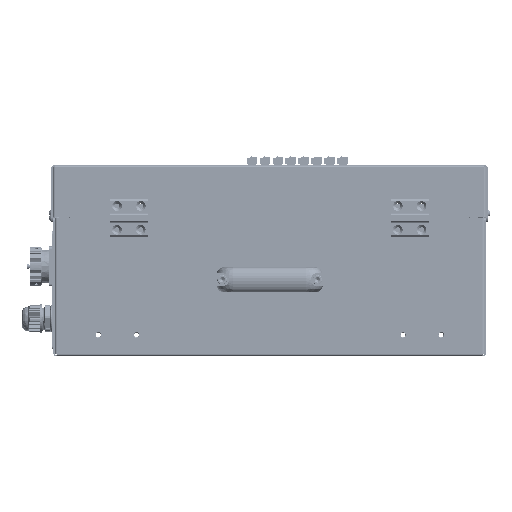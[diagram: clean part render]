
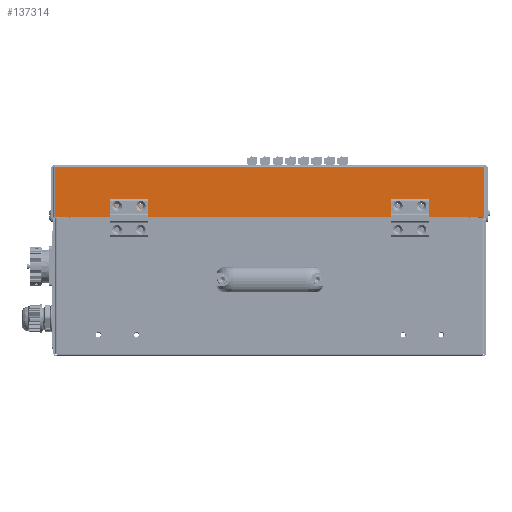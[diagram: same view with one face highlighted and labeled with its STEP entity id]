
A CAD part, front view. The second image highlights one B-rep face of the part: STEP entity #137314.
In plain terms, the highlighted planar face has unit normal (0, -1, 0) as drawn and (0, 1, 0) by its records, which use the part's own axes.
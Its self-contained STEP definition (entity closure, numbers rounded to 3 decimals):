
#278 = DIRECTION ( 'NONE',  ( 0., 1., 0. ) ) ;
#5006 = CARTESIAN_POINT ( 'NONE',  ( -225.4, 85., 53. ) ) ;
#8452 = VERTEX_POINT ( 'NONE', #103624 ) ;
#11930 = DIRECTION ( 'NONE',  ( 0., 0., 1. ) ) ;
#13753 = CARTESIAN_POINT ( 'NONE',  ( 160., 85., 37.85 ) ) ;
#15231 = DIRECTION ( 'NONE',  ( 0., 0., 1. ) ) ;
#16548 = ORIENTED_EDGE ( 'NONE', *, *, #148949, .F. ) ;
#19410 = FACE_BOUND ( 'NONE', #103997, .T. ) ;
#19892 = CARTESIAN_POINT ( 'NONE',  ( 160., 85., 40.5 ) ) ;
#24960 = EDGE_CURVE ( 'NONE', #155293, #49703, #72495, .T. ) ;
#26278 = CIRCLE ( 'NONE', #146315, 2.65 ) ;
#26330 = LINE ( 'NONE', #143167, #161581 ) ;
#28351 = ORIENTED_EDGE ( 'NONE', *, *, #125011, .F. ) ;
#31046 = AXIS2_PLACEMENT_3D ( 'NONE', #88602, #50203, #164798 ) ;
#31510 = ORIENTED_EDGE ( 'NONE', *, *, #107117, .T. ) ;
#35456 = VERTEX_POINT ( 'NONE', #37569 ) ;
#35562 = DIRECTION ( 'NONE',  ( 0., 0., 1. ) ) ;
#37569 = CARTESIAN_POINT ( 'NONE',  ( 135., 85., 37.85 ) ) ;
#39466 = EDGE_CURVE ( 'NONE', #68684, #56013, #46114, .T. ) ;
#40514 = CARTESIAN_POINT ( 'NONE',  ( -160., 85., 37.85 ) ) ;
#40593 = AXIS2_PLACEMENT_3D ( 'NONE', #114919, #63892, #140778 ) ;
#41624 = CIRCLE ( 'NONE', #76150, 2.65 ) ;
#44014 = EDGE_LOOP ( 'NONE', ( #100522, #89436 ) ) ;
#46114 = CIRCLE ( 'NONE', #107415, 2.65 ) ;
#46132 = AXIS2_PLACEMENT_3D ( 'NONE', #126393, #164097, #114686 ) ;
#49524 = VERTEX_POINT ( 'NONE', #162417 ) ;
#49703 = VERTEX_POINT ( 'NONE', #96271 ) ;
#49924 = CARTESIAN_POINT ( 'NONE',  ( 225.4, 85., 0.5 ) ) ;
#50203 = DIRECTION ( 'NONE',  ( 0., 1., 0. ) ) ;
#52934 = DIRECTION ( 'NONE',  ( 0., 0., -1. ) ) ;
#54429 = FACE_BOUND ( 'NONE', #101724, .T. ) ;
#56013 = VERTEX_POINT ( 'NONE', #13753 ) ;
#56093 = DIRECTION ( 'NONE',  ( 0., 0., 1. ) ) ;
#57872 = VECTOR ( 'NONE', #97580, 1000. ) ;
#58602 = ORIENTED_EDGE ( 'NONE', *, *, #24960, .F. ) ;
#58948 = VECTOR ( 'NONE', #118454, 1000. ) ;
#58957 = VERTEX_POINT ( 'NONE', #124114 ) ;
#58999 = ORIENTED_EDGE ( 'NONE', *, *, #84787, .F. ) ;
#59508 = VERTEX_POINT ( 'NONE', #101188 ) ;
#59898 = DIRECTION ( 'NONE',  ( 0., 1., 0. ) ) ;
#59935 = EDGE_CURVE ( 'NONE', #155293, #8452, #26330, .T. ) ;
#62758 = CARTESIAN_POINT ( 'NONE',  ( -135., 85., 40.5 ) ) ;
#63892 = DIRECTION ( 'NONE',  ( 0., 1., 0. ) ) ;
#64623 = DIRECTION ( 'NONE',  ( -1., 0., 0. ) ) ;
#66354 = EDGE_CURVE ( 'NONE', #59508, #35456, #26278, .T. ) ;
#68684 = VERTEX_POINT ( 'NONE', #69379 ) ;
#69379 = CARTESIAN_POINT ( 'NONE',  ( 160., 85., 43.15 ) ) ;
#70035 = EDGE_CURVE ( 'NONE', #49524, #104141, #84390, .T. ) ;
#70266 = FACE_BOUND ( 'NONE', #152879, .T. ) ;
#71108 = FACE_BOUND ( 'NONE', #44014, .T. ) ;
#72495 = LINE ( 'NONE', #110984, #57872 ) ;
#73227 = DIRECTION ( 'NONE',  ( 0., 0., 1. ) ) ;
#74416 = EDGE_CURVE ( 'NONE', #56013, #68684, #81816, .T. ) ;
#76150 = AXIS2_PLACEMENT_3D ( 'NONE', #94187, #81678, #35562 ) ;
#78922 = EDGE_CURVE ( 'NONE', #131446, #58957, #155826, .T. ) ;
#79009 = ORIENTED_EDGE ( 'NONE', *, *, #59935, .T. ) ;
#81678 = DIRECTION ( 'NONE',  ( 0., 1., 0. ) ) ;
#81816 = CIRCLE ( 'NONE', #159375, 2.65 ) ;
#82526 = CARTESIAN_POINT ( 'NONE',  ( -135., 85., 37.85 ) ) ;
#83590 = ORIENTED_EDGE ( 'NONE', *, *, #78922, .F. ) ;
#83682 = AXIS2_PLACEMENT_3D ( 'NONE', #62758, #141246, #11930 ) ;
#84390 = CIRCLE ( 'NONE', #31046, 2.65 ) ;
#84787 = EDGE_CURVE ( 'NONE', #104141, #49524, #115370, .T. ) ;
#86636 = ORIENTED_EDGE ( 'NONE', *, *, #39466, .F. ) ;
#88602 = CARTESIAN_POINT ( 'NONE',  ( -160., 85., 40.5 ) ) ;
#89436 = ORIENTED_EDGE ( 'NONE', *, *, #120525, .F. ) ;
#94187 = CARTESIAN_POINT ( 'NONE',  ( -135., 85., 40.5 ) ) ;
#95319 = PLANE ( 'NONE',  #106892 ) ;
#96271 = CARTESIAN_POINT ( 'NONE',  ( 225.4, 85., 53. ) ) ;
#97580 = DIRECTION ( 'NONE',  ( 0., 0., 1. ) ) ;
#99798 = ORIENTED_EDGE ( 'NONE', *, *, #74416, .F. ) ;
#100522 = ORIENTED_EDGE ( 'NONE', *, *, #66354, .F. ) ;
#101188 = CARTESIAN_POINT ( 'NONE',  ( 135., 85., 43.15 ) ) ;
#101724 = EDGE_LOOP ( 'NONE', ( #86636, #99798 ) ) ;
#103624 = CARTESIAN_POINT ( 'NONE',  ( -225.4, 85., 0.5 ) ) ;
#103997 = EDGE_LOOP ( 'NONE', ( #106381, #58999 ) ) ;
#104141 = VERTEX_POINT ( 'NONE', #40514 ) ;
#106381 = ORIENTED_EDGE ( 'NONE', *, *, #70035, .F. ) ;
#106892 = AXIS2_PLACEMENT_3D ( 'NONE', #159780, #146354, #56093 ) ;
#107117 = EDGE_CURVE ( 'NONE', #127255, #49703, #132654, .T. ) ;
#107415 = AXIS2_PLACEMENT_3D ( 'NONE', #114619, #278, #142102 ) ;
#110984 = CARTESIAN_POINT ( 'NONE',  ( 225.4, 85., 38.5 ) ) ;
#114619 = CARTESIAN_POINT ( 'NONE',  ( 160., 85., 40.5 ) ) ;
#114686 = DIRECTION ( 'NONE',  ( 0., 0., 1. ) ) ;
#114919 = CARTESIAN_POINT ( 'NONE',  ( -160., 85., 40.5 ) ) ;
#115370 = CIRCLE ( 'NONE', #40593, 2.65 ) ;
#118454 = DIRECTION ( 'NONE',  ( 1., 0., 0. ) ) ;
#118824 = FACE_OUTER_BOUND ( 'NONE', #146004, .T. ) ;
#119536 = DIRECTION ( 'NONE',  ( 0., 1., 0. ) ) ;
#120525 = EDGE_CURVE ( 'NONE', #35456, #59508, #134155, .T. ) ;
#124114 = CARTESIAN_POINT ( 'NONE',  ( -135., 85., 43.15 ) ) ;
#125011 = EDGE_CURVE ( 'NONE', #58957, #131446, #41624, .T. ) ;
#126393 = CARTESIAN_POINT ( 'NONE',  ( 135., 85., 40.5 ) ) ;
#127255 = VERTEX_POINT ( 'NONE', #5006 ) ;
#129866 = CARTESIAN_POINT ( 'NONE',  ( -225.4, 85., 0. ) ) ;
#131446 = VERTEX_POINT ( 'NONE', #82526 ) ;
#131810 = CARTESIAN_POINT ( 'NONE',  ( 225.4, 85., 53. ) ) ;
#132654 = LINE ( 'NONE', #131810, #58948 ) ;
#134155 = CIRCLE ( 'NONE', #46132, 2.65 ) ;
#137314 = ADVANCED_FACE ( 'NONE', ( #19410, #70266, #71108, #54429, #118824 ), #95319, .T. ) ;
#140778 = DIRECTION ( 'NONE',  ( 0., 0., 1. ) ) ;
#141246 = DIRECTION ( 'NONE',  ( 0., 1., 0. ) ) ;
#141263 = CARTESIAN_POINT ( 'NONE',  ( 135., 85., 40.5 ) ) ;
#141502 = LINE ( 'NONE', #129866, #150006 ) ;
#142102 = DIRECTION ( 'NONE',  ( 0., 0., 1. ) ) ;
#143167 = CARTESIAN_POINT ( 'NONE',  ( 0., 85., 0.5 ) ) ;
#146004 = EDGE_LOOP ( 'NONE', ( #58602, #79009, #16548, #31510 ) ) ;
#146315 = AXIS2_PLACEMENT_3D ( 'NONE', #141263, #119536, #15231 ) ;
#146354 = DIRECTION ( 'NONE',  ( 0., 1., 0. ) ) ;
#148949 = EDGE_CURVE ( 'NONE', #127255, #8452, #141502, .T. ) ;
#150006 = VECTOR ( 'NONE', #52934, 1000. ) ;
#152879 = EDGE_LOOP ( 'NONE', ( #28351, #83590 ) ) ;
#155293 = VERTEX_POINT ( 'NONE', #49924 ) ;
#155826 = CIRCLE ( 'NONE', #83682, 2.65 ) ;
#159375 = AXIS2_PLACEMENT_3D ( 'NONE', #19892, #59898, #73227 ) ;
#159780 = CARTESIAN_POINT ( 'NONE',  ( 0., 85., 0. ) ) ;
#161581 = VECTOR ( 'NONE', #64623, 1000. ) ;
#162417 = CARTESIAN_POINT ( 'NONE',  ( -160., 85., 43.15 ) ) ;
#164097 = DIRECTION ( 'NONE',  ( 0., 1., 0. ) ) ;
#164798 = DIRECTION ( 'NONE',  ( 0., 0., 1. ) ) ;
